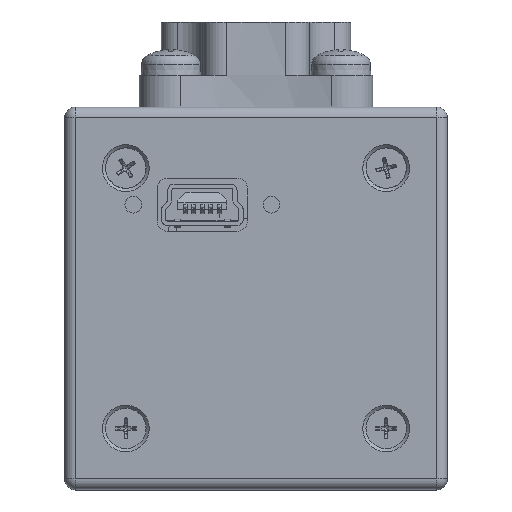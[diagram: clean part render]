
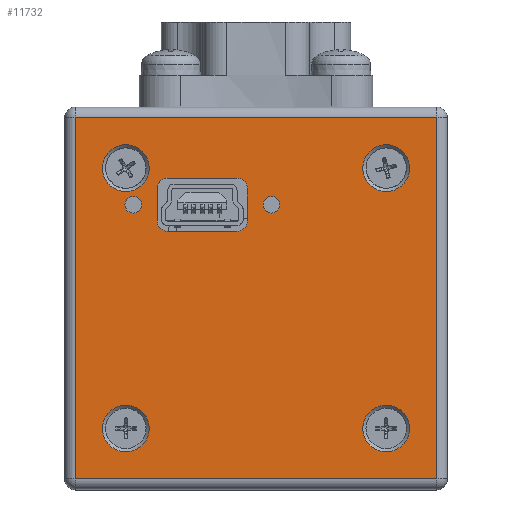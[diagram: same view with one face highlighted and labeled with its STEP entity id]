
A CAD part, top view. The second image highlights one B-rep face of the part: STEP entity #11732.
In plain terms, the highlighted planar face has unit normal (0, 0, 1).
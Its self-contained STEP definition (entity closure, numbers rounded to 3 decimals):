
#212=LINE($,#18035,#1082);
#216=LINE($,#18048,#1086);
#220=LINE($,#18054,#1090);
#224=LINE($,#18060,#1094);
#228=LINE($,#18078,#1098);
#229=LINE($,#18082,#1099);
#230=LINE($,#18086,#1100);
#231=LINE($,#18090,#1101);
#1082=VECTOR($,#14162,34.);
#1086=VECTOR($,#14178,34.);
#1090=VECTOR($,#14186,34.);
#1094=VECTOR($,#14194,34.);
#1098=VECTOR($,#14214,3.);
#1099=VECTOR($,#14217,6.5);
#1100=VECTOR($,#14220,3.);
#1101=VECTOR($,#14223,6.5);
#2039=PLANE($,#12564);
#2543=FACE_BOUND($,#3566,.T.);
#2544=FACE_BOUND($,#3567,.T.);
#2545=FACE_BOUND($,#3568,.T.);
#2546=FACE_BOUND($,#3569,.T.);
#2547=FACE_BOUND($,#3570,.T.);
#2548=FACE_BOUND($,#3571,.T.);
#2549=FACE_BOUND($,#3572,.T.);
#2550=FACE_BOUND($,#3573,.T.);
#3566=EDGE_LOOP($,(#8191,#8192,#8193,#8194,#8195,#8196,#8197,#8198));
#3567=EDGE_LOOP($,(#8199));
#3568=EDGE_LOOP($,(#8200));
#3569=EDGE_LOOP($,(#8201));
#3570=EDGE_LOOP($,(#8202));
#3571=EDGE_LOOP($,(#8203));
#3572=EDGE_LOOP($,(#8204));
#3573=EDGE_LOOP($,(#8205,#8206,#8207,#8208));
#4412=CIRCLE($,#12565,1.);
#4413=CIRCLE($,#12566,1.);
#4414=CIRCLE($,#12567,1.);
#4415=CIRCLE($,#12568,1.);
#4416=CIRCLE($,#12569,0.784);
#4417=CIRCLE($,#12570,0.784);
#4418=CIRCLE($,#12571,2.2);
#4419=CIRCLE($,#12572,2.2);
#4420=CIRCLE($,#12573,2.2);
#4421=CIRCLE($,#12574,2.2);
#5071=VERTEX_POINT($,#18017);
#5072=VERTEX_POINT($,#18021);
#5075=VERTEX_POINT($,#18028);
#5078=VERTEX_POINT($,#18041);
#5085=VERTEX_POINT($,#18076);
#5086=VERTEX_POINT($,#18077);
#5087=VERTEX_POINT($,#18079);
#5088=VERTEX_POINT($,#18081);
#5089=VERTEX_POINT($,#18083);
#5090=VERTEX_POINT($,#18085);
#5091=VERTEX_POINT($,#18087);
#5092=VERTEX_POINT($,#18089);
#5093=VERTEX_POINT($,#18092);
#5094=VERTEX_POINT($,#18094);
#5095=VERTEX_POINT($,#18096);
#5096=VERTEX_POINT($,#18098);
#5097=VERTEX_POINT($,#18100);
#5098=VERTEX_POINT($,#18102);
#6267=EDGE_CURVE($,#5075,#5071,#212,.T.);
#6274=EDGE_CURVE($,#5078,#5075,#216,.T.);
#6278=EDGE_CURVE($,#5072,#5078,#220,.T.);
#6282=EDGE_CURVE($,#5071,#5072,#224,.T.);
#6290=EDGE_CURVE($,#5085,#5086,#228,.T.);
#6291=EDGE_CURVE($,#5087,#5086,#4412,.T.);
#6292=EDGE_CURVE($,#5087,#5088,#229,.T.);
#6293=EDGE_CURVE($,#5089,#5088,#4413,.T.);
#6294=EDGE_CURVE($,#5089,#5090,#230,.T.);
#6295=EDGE_CURVE($,#5091,#5090,#4414,.T.);
#6296=EDGE_CURVE($,#5091,#5092,#231,.T.);
#6297=EDGE_CURVE($,#5085,#5092,#4415,.T.);
#6298=EDGE_CURVE($,#5093,#5093,#4416,.T.);
#6299=EDGE_CURVE($,#5094,#5094,#4417,.T.);
#6300=EDGE_CURVE($,#5095,#5095,#4418,.T.);
#6301=EDGE_CURVE($,#5096,#5096,#4419,.T.);
#6302=EDGE_CURVE($,#5097,#5097,#4420,.T.);
#6303=EDGE_CURVE($,#5098,#5098,#4421,.T.);
#8191=ORIENTED_EDGE($,*,*,#6290,.T.);
#8192=ORIENTED_EDGE($,*,*,#6291,.F.);
#8193=ORIENTED_EDGE($,*,*,#6292,.T.);
#8194=ORIENTED_EDGE($,*,*,#6293,.F.);
#8195=ORIENTED_EDGE($,*,*,#6294,.T.);
#8196=ORIENTED_EDGE($,*,*,#6295,.F.);
#8197=ORIENTED_EDGE($,*,*,#6296,.T.);
#8198=ORIENTED_EDGE($,*,*,#6297,.F.);
#8199=ORIENTED_EDGE($,*,*,#6298,.T.);
#8200=ORIENTED_EDGE($,*,*,#6299,.T.);
#8201=ORIENTED_EDGE($,*,*,#6300,.T.);
#8202=ORIENTED_EDGE($,*,*,#6301,.T.);
#8203=ORIENTED_EDGE($,*,*,#6302,.T.);
#8204=ORIENTED_EDGE($,*,*,#6303,.T.);
#8205=ORIENTED_EDGE($,*,*,#6267,.F.);
#8206=ORIENTED_EDGE($,*,*,#6274,.F.);
#8207=ORIENTED_EDGE($,*,*,#6278,.F.);
#8208=ORIENTED_EDGE($,*,*,#6282,.F.);
#11732=ADVANCED_FACE($,(#2543,#2544,#2545,#2546,#2547,#2548,#2549,#2550),
#2039,.F.);
#12564=AXIS2_PLACEMENT_3D($,#18075,#14212,#14213);
#12565=AXIS2_PLACEMENT_3D($,#18080,#14215,#14216);
#12566=AXIS2_PLACEMENT_3D($,#18084,#14218,#14219);
#12567=AXIS2_PLACEMENT_3D($,#18088,#14221,#14222);
#12568=AXIS2_PLACEMENT_3D($,#18091,#14224,#14225);
#12569=AXIS2_PLACEMENT_3D($,#18093,#14226,#14227);
#12570=AXIS2_PLACEMENT_3D($,#18095,#14228,#14229);
#12571=AXIS2_PLACEMENT_3D($,#18097,#14230,#14231);
#12572=AXIS2_PLACEMENT_3D($,#18099,#14232,#14233);
#12573=AXIS2_PLACEMENT_3D($,#18101,#14234,#14235);
#12574=AXIS2_PLACEMENT_3D($,#18103,#14236,#14237);
#14162=DIRECTION($,(1.,0.,0.));
#14178=DIRECTION($,(0.,1.,0.));
#14186=DIRECTION($,(-1.,0.,0.));
#14194=DIRECTION($,(0.,-1.,0.));
#14212=DIRECTION('center_axis',(0.,0.,
-1.));
#14213=DIRECTION('ref_axis',(-1.,0.,0.));
#14214=DIRECTION($,(0.,1.,0.));
#14215=DIRECTION('center_axis',(0.,0.,
1.));
#14216=DIRECTION('ref_axis',(-0.707,0.707,0.));
#14217=DIRECTION($,(1.,0.,0.));
#14218=DIRECTION('center_axis',(0.,0.,
1.));
#14219=DIRECTION('ref_axis',(0.707,0.707,0.));
#14220=DIRECTION($,(0.,-1.,0.));
#14221=DIRECTION('center_axis',(0.,0.,
1.));
#14222=DIRECTION('ref_axis',(0.707,-0.707,0.));
#14223=DIRECTION($,(-1.,0.,0.));
#14224=DIRECTION('center_axis',(0.,0.,
1.));
#14225=DIRECTION('ref_axis',(-0.707,-0.707,0.));
#14226=DIRECTION('center_axis',(0.,0.,
-1.));
#14227=DIRECTION('ref_axis',(1.,0.,0.));
#14228=DIRECTION('center_axis',(0.,0.,
-1.));
#14229=DIRECTION('ref_axis',(1.,0.,0.));
#14230=DIRECTION('center_axis',(0.,0.,
-1.));
#14231=DIRECTION('ref_axis',(1.,0.,0.));
#14232=DIRECTION('center_axis',(0.,0.,
-1.));
#14233=DIRECTION('ref_axis',(1.,0.,0.));
#14234=DIRECTION('center_axis',(0.,0.,
-1.));
#14235=DIRECTION('ref_axis',(1.,0.,0.));
#14236=DIRECTION('center_axis',(0.,0.,
-1.));
#14237=DIRECTION('ref_axis',(1.,0.,0.));
#18017=CARTESIAN_POINT('',(17.,17.,23.));
#18021=CARTESIAN_POINT('',(17.,-17.,23.));
#18028=CARTESIAN_POINT('',(-17.,17.,23.));
#18035=CARTESIAN_POINT($,(9.,17.,23.));
#18041=CARTESIAN_POINT('',(-17.,-17.,23.));
#18048=CARTESIAN_POINT($,(-17.,9.,23.));
#18054=CARTESIAN_POINT($,(-9.,-17.,23.));
#18060=CARTESIAN_POINT($,(17.,-9.,23.));
#18075=CARTESIAN_POINT('Origin',(0.,0.,
23.));
#18076=CARTESIAN_POINT('',(-9.3,7.3,23.));
#18077=CARTESIAN_POINT('',(-9.3,10.3,23.));
#18078=CARTESIAN_POINT($,(-9.3,5.65,23.));
#18079=CARTESIAN_POINT('',(-8.3,11.3,23.));
#18080=CARTESIAN_POINT('Origin',(-8.3,10.3,23.));
#18081=CARTESIAN_POINT('',(-1.8,11.3,23.));
#18082=CARTESIAN_POINT($,(-0.4,11.3,23.));
#18083=CARTESIAN_POINT('',(-0.8,10.3,23.));
#18084=CARTESIAN_POINT('Origin',(-1.8,10.3,23.));
#18085=CARTESIAN_POINT('',(-0.8,7.3,23.));
#18086=CARTESIAN_POINT($,(-0.8,3.15,23.));
#18087=CARTESIAN_POINT('',(-1.8,6.3,23.));
#18088=CARTESIAN_POINT('Origin',(-1.8,7.3,23.));
#18089=CARTESIAN_POINT('',(-8.3,6.3,23.));
#18090=CARTESIAN_POINT($,(-4.65,6.3,23.));
#18091=CARTESIAN_POINT('Origin',(-8.3,7.3,23.));
#18092=CARTESIAN_POINT('',(-10.767,8.8,23.));
#18093=CARTESIAN_POINT('Origin',(-11.55,8.8,23.));
#18094=CARTESIAN_POINT('',(2.234,8.8,23.));
#18095=CARTESIAN_POINT('Origin',(1.45,8.8,23.));
#18096=CARTESIAN_POINT('',(-10.05,12.25,23.));
#18097=CARTESIAN_POINT('Origin',(-12.25,12.25,23.));
#18098=CARTESIAN_POINT('',(14.45,12.25,23.));
#18099=CARTESIAN_POINT('Origin',(12.25,12.25,23.));
#18100=CARTESIAN_POINT('',(14.45,-12.25,23.));
#18101=CARTESIAN_POINT('Origin',(12.25,-12.25,23.));
#18102=CARTESIAN_POINT('',(-10.05,-12.25,23.));
#18103=CARTESIAN_POINT('Origin',(-12.25,-12.25,23.));
